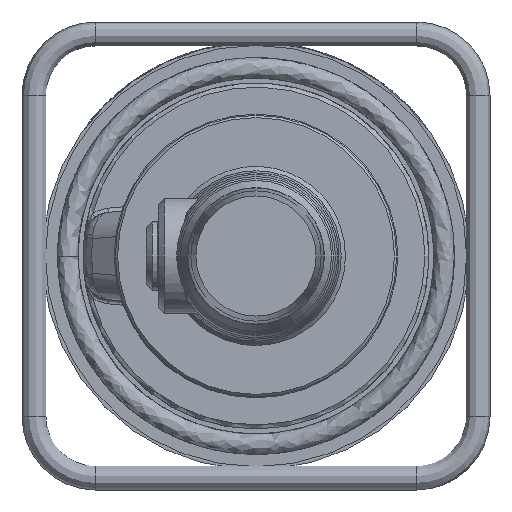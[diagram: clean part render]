
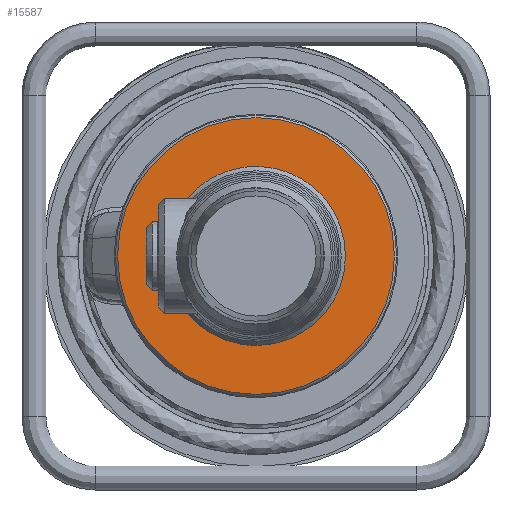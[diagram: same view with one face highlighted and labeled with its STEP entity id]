
A CAD part, left-side view. The second image highlights one B-rep face of the part: STEP entity #15587.
In plain terms, the highlighted planar face has unit normal (-1, 0, 0).
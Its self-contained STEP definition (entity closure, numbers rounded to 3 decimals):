
#831=B_SPLINE_CURVE_WITH_KNOTS('',3,(#35768,#35769,#35770,#35771,#35772,
#35773,#35774,#35775,#35776,#35777,#35778,#35779,#35780,#35781,#35782,#35783,
#35784,#35785,#35786,#35787,#35788,#35789,#35790,#35791,#35792,#35793),
 .UNSPECIFIED.,.F.,.F.,(4,2,2,2,2,2,2,2,2,2,2,2,4),(-9.637,-9.63,
-9.622,-9.603,-9.551,-9.384,
-8.87,-7.81,-6.371,-4.874,
-3.299,-1.673,0.),.UNSPECIFIED.);
#1573=PLANE('',#16424);
#2438=LINE('',#35766,#3301);
#3301=VECTOR('',#18916,1.668);
#3506=FACE_BOUND('',#5349,.T.);
#4329=FACE_OUTER_BOUND('',#5348,.T.);
#5348=EDGE_LOOP('',(#13736));
#5349=EDGE_LOOP('',(#13737,#13738,#13739));
#5982=CIRCLE('',#16425,68.);
#5983=CIRCLE('',#16426,40.75);
#7497=VERTEX_POINT('',#35762);
#7498=VERTEX_POINT('',#35764);
#7499=VERTEX_POINT('',#35765);
#7500=VERTEX_POINT('',#35767);
#9624=EDGE_CURVE('',#7497,#7497,#5982,.T.);
#9625=EDGE_CURVE('',#7498,#7499,#2438,.T.);
#9626=EDGE_CURVE('',#7500,#7498,#831,.T.);
#9627=EDGE_CURVE('',#7500,#7499,#5983,.T.);
#13736=ORIENTED_EDGE('',*,*,#9624,.F.);
#13737=ORIENTED_EDGE('',*,*,#9625,.F.);
#13738=ORIENTED_EDGE('',*,*,#9626,.F.);
#13739=ORIENTED_EDGE('',*,*,#9627,.T.);
#15587=ADVANCED_FACE('',(#4329,#3506),#1573,.T.);
#16424=AXIS2_PLACEMENT_3D('',#35761,#18912,#18913);
#16425=AXIS2_PLACEMENT_3D('',#35763,#18914,#18915);
#16426=AXIS2_PLACEMENT_3D('',#35794,#18917,#18918);
#18912=DIRECTION('center_axis',(-1.,0.,0.));
#18913=DIRECTION('ref_axis',(0.,-1.,0.));
#18914=DIRECTION('center_axis',(1.,0.,0.));
#18915=DIRECTION('ref_axis',(0.,0.,
-1.));
#18916=DIRECTION('',(0.,0.951,-0.309));
#18917=DIRECTION('center_axis',(1.,0.,0.));
#18918=DIRECTION('ref_axis',(0.,0.,
-1.));
#35761=CARTESIAN_POINT('Origin',(-128.,0.,-55.5));
#35762=CARTESIAN_POINT('',(-128.,0.,-68.));
#35763=CARTESIAN_POINT('Origin',(-128.,0.,0.));
#35764=CARTESIAN_POINT('',(-128.,-40.342,13.108));
#35765=CARTESIAN_POINT('',(-128.,-38.756,12.592));
#35766=CARTESIAN_POINT('',(-128.,-11.266,3.661));
#35767=CARTESIAN_POINT('',(-128.,6.525,-40.224));
#35768=CARTESIAN_POINT('Ctrl Pts',(-128.,6.525,-40.224));
#35769=CARTESIAN_POINT('Ctrl Pts',(-128.,6.526,-40.229));
#35770=CARTESIAN_POINT('Ctrl Pts',(-128.,6.526,-40.234));
#35771=CARTESIAN_POINT('Ctrl Pts',(-128.,6.524,-40.245));
#35772=CARTESIAN_POINT('Ctrl Pts',(-128.,6.523,-40.25));
#35773=CARTESIAN_POINT('Ctrl Pts',(-128.,6.515,-40.268));
#35774=CARTESIAN_POINT('Ctrl Pts',(-128.,6.507,-40.279));
#35775=CARTESIAN_POINT('Ctrl Pts',(-128.,6.472,-40.317));
#35776=CARTESIAN_POINT('Ctrl Pts',(-128.,6.433,-40.344));
#35777=CARTESIAN_POINT('Ctrl Pts',(-128.,6.276,-40.437));
#35778=CARTESIAN_POINT('Ctrl Pts',(-128.,6.099,-40.505));
#35779=CARTESIAN_POINT('Ctrl Pts',(-128.,5.564,-40.695));
#35780=CARTESIAN_POINT('Ctrl Pts',(-128.,4.963,-40.856));
#35781=CARTESIAN_POINT('Ctrl Pts',(-128.,2.674,-41.317));
#35782=CARTESIAN_POINT('Ctrl Pts',(-128.,0.244,-41.635));
#35783=CARTESIAN_POINT('Ctrl Pts',(-128.,-6.94,-41.468));
#35784=CARTESIAN_POINT('Ctrl Pts',(-128.,-11.399,-40.675));
#35785=CARTESIAN_POINT('Ctrl Pts',(-128.,-20.537,
-37.191));
#35786=CARTESIAN_POINT('Ctrl Pts',(-128.,-24.833,
-34.57));
#35787=CARTESIAN_POINT('Ctrl Pts',(-128.,-32.474,
-27.759));
#35788=CARTESIAN_POINT('Ctrl Pts',(-128.,-35.695,
-23.552));
#35789=CARTESIAN_POINT('Ctrl Pts',(-128.,-40.483,
-14.015));
#35790=CARTESIAN_POINT('Ctrl Pts',(-128.,-41.949,
-8.738));
#35791=CARTESIAN_POINT('Ctrl Pts',(-128.,-42.796,
2.228));
#35792=CARTESIAN_POINT('Ctrl Pts',(-128.,-42.109,7.82));
#35793=CARTESIAN_POINT('Ctrl Pts',(-128.,-40.342,13.108));
#35794=CARTESIAN_POINT('Origin',(-128.,0.,
0.));
